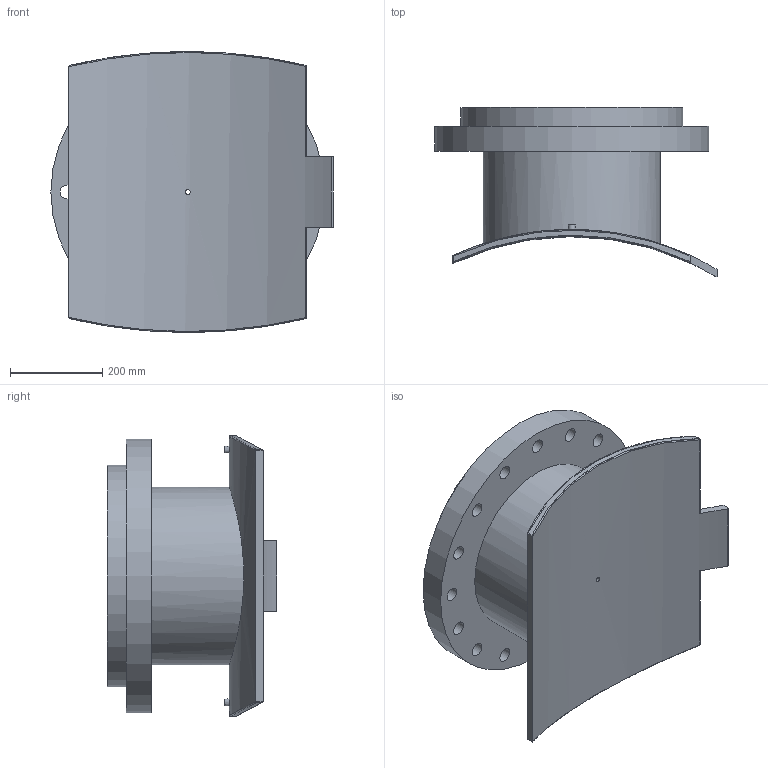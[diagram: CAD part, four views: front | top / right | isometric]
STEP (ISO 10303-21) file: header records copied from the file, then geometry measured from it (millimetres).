
FILE_DESCRIPTION(/* description */ ('PLASSON FLANGED BRANCH SADDLE 1200X400'),/* implementation_level */ '2;1');
FILE_NAME(/* name */ 'C:\Dropbox\KIMPROJECTS-Inventor 2019\99-16-3568-Processing\ElectroFusion Fittings\495904_495903\stp\4959031200400T.stp',/* time_stamp */ '2024-04-03T21:08:38+02:00',/* author */ ('KIM'),/* organization */ (''),/* preprocessor_version */ 'ST-DEVELOPER v17.2',/* originating_system */ 'Autodesk Inventor 2019',/* authorisation */ '');
FILE_SCHEMA (('AUTOMOTIVE_DESIGN { 1 0 10303 214 3 1 1 }'));
Length unit declared in the file: millimetre
Products named in the file (1): 4959031200400T
Bounding box: 613.2 x 367.21 x 609.97 mm (x, y, z)
Volume: 24799866.4 mm3; surface area: 1752194.5 mm2
Topology: 1 solids, 1 shells, 66 faces, 175 edges, 134 vertices
Faces by surface type: cylinder 39, plane 17, sphere 4, bspline 4, cone 2
Full cylindrical faces by diameter (mm): 4 x2, 10 x2, 10.4 x1, 16 x1, 30 x16, 327 x1, 385.6 x1, 482 x1, 595 x1
Entity records: 2771 total; most frequent: CARTESIAN_POINT 1011, DIRECTION 353, ORIENTED_EDGE 322, EDGE_CURVE 161, AXIS2_PLACEMENT_3D 149, EDGE_LOOP 111, VERTEX_POINT 108, CIRCLE 86
